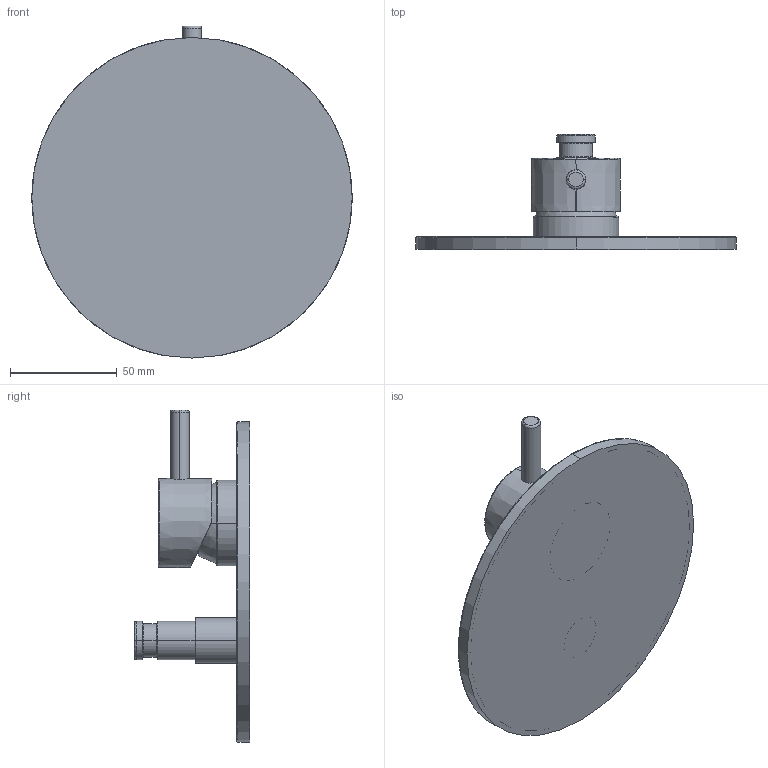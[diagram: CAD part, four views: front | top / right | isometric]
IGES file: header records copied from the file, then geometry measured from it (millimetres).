
Start section:  PTC IGES file: 12010A.igs
Global section: file name: 12010A.igs; native system: Creo Parametric by PTC Inc.; preprocessor: 2022014; author: carloff; organization: Unknown; date: 20240215.144530; units: millimetre
Bounding box: 150 x 53.9 x 155.4 mm (x, y, z)
Surface area: 86659.8 mm2 (no closed solid volume)
Topology: 0 solids, 0 shells, 197 faces, 994 edges, 990 vertices
Faces by surface type: revolution 118, bspline 79
